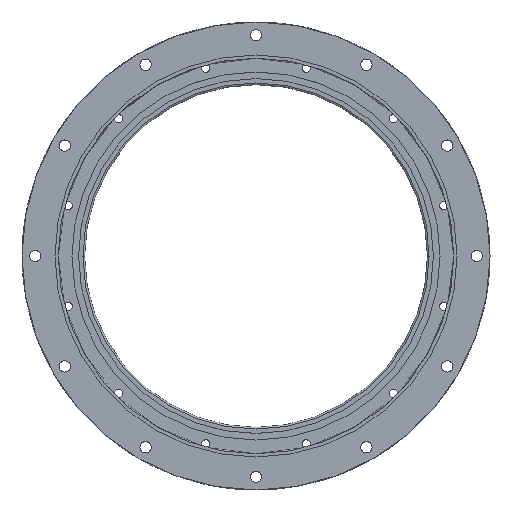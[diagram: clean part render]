
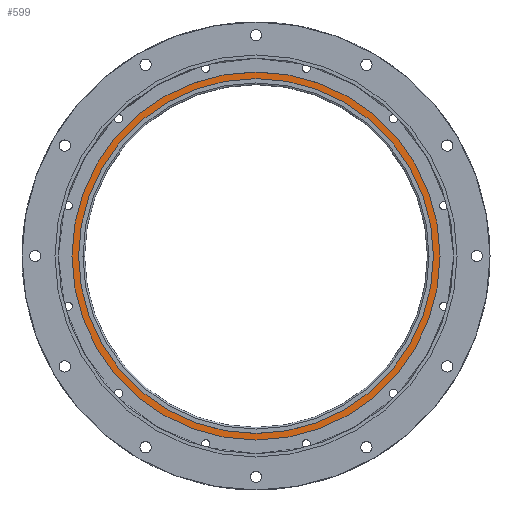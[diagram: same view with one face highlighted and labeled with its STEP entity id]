
A CAD part, top view. The second image highlights one B-rep face of the part: STEP entity #599.
In plain terms, the highlighted planar face has unit normal (0, 0, 1).
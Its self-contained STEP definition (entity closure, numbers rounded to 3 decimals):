
#40 = ORIENTED_EDGE ( 'NONE', *, *, #3191, .T. ) ;
#207 = AXIS2_PLACEMENT_3D ( 'NONE', #5535, #818, #1891 ) ;
#385 = DIRECTION ( 'NONE',  ( 1., 0., 0. ) ) ;
#457 = ORIENTED_EDGE ( 'NONE', *, *, #2290, .T. ) ;
#527 = CARTESIAN_POINT ( 'NONE',  ( 0., 0., 4.8 ) ) ;
#599 = ADVANCED_FACE ( 'NONE', ( #4977, #1909 ), #1973, .T. ) ;
#818 = DIRECTION ( 'NONE',  ( 0., 0., 1. ) ) ;
#829 = AXIS2_PLACEMENT_3D ( 'NONE', #5490, #834, #385 ) ;
#834 = DIRECTION ( 'NONE',  ( 0., 0., 1. ) ) ;
#1053 = EDGE_CURVE ( 'NONE', #4010, #5414, #4382, .T. ) ;
#1172 = CIRCLE ( 'NONE', #3864, 55.835 ) ;
#1392 = CIRCLE ( 'NONE', #207, 53.835 ) ;
#1558 = CARTESIAN_POINT ( 'NONE',  ( 0., 0., 4.8 ) ) ;
#1619 = EDGE_LOOP ( 'NONE', ( #4319, #2962 ) ) ;
#1835 = CIRCLE ( 'NONE', #2692, 55.835 ) ;
#1891 = DIRECTION ( 'NONE',  ( 1., 0., 0. ) ) ;
#1909 = FACE_OUTER_BOUND ( 'NONE', #4105, .T. ) ;
#1973 = PLANE ( 'NONE',  #829 ) ;
#2252 = EDGE_CURVE ( 'NONE', #5414, #4010, #1392, .T. ) ;
#2290 = EDGE_CURVE ( 'NONE', #3253, #5097, #1172, .T. ) ;
#2559 = AXIS2_PLACEMENT_3D ( 'NONE', #6437, #5000, #4423 ) ;
#2566 = DIRECTION ( 'NONE',  ( 1., 0., 0. ) ) ;
#2588 = DIRECTION ( 'NONE',  ( 1., 0., 0. ) ) ;
#2692 = AXIS2_PLACEMENT_3D ( 'NONE', #527, #3488, #2588 ) ;
#2962 = ORIENTED_EDGE ( 'NONE', *, *, #1053, .F. ) ;
#3061 = CARTESIAN_POINT ( 'NONE',  ( -53.835, 0., 4.8 ) ) ;
#3185 = CARTESIAN_POINT ( 'NONE',  ( -55.835, 0., 4.8 ) ) ;
#3191 = EDGE_CURVE ( 'NONE', #5097, #3253, #1835, .T. ) ;
#3253 = VERTEX_POINT ( 'NONE', #3185 ) ;
#3488 = DIRECTION ( 'NONE',  ( 0., 0., 1. ) ) ;
#3676 = CARTESIAN_POINT ( 'NONE',  ( 53.835, 0., 4.8 ) ) ;
#3864 = AXIS2_PLACEMENT_3D ( 'NONE', #1558, #5099, #2566 ) ;
#4010 = VERTEX_POINT ( 'NONE', #3061 ) ;
#4105 = EDGE_LOOP ( 'NONE', ( #40, #457 ) ) ;
#4319 = ORIENTED_EDGE ( 'NONE', *, *, #2252, .F. ) ;
#4356 = CARTESIAN_POINT ( 'NONE',  ( 55.835, 0., 4.8 ) ) ;
#4382 = CIRCLE ( 'NONE', #2559, 53.835 ) ;
#4423 = DIRECTION ( 'NONE',  ( 1., 0., 0. ) ) ;
#4977 = FACE_BOUND ( 'NONE', #1619, .T. ) ;
#5000 = DIRECTION ( 'NONE',  ( 0., 0., 1. ) ) ;
#5097 = VERTEX_POINT ( 'NONE', #4356 ) ;
#5099 = DIRECTION ( 'NONE',  ( 0., 0., 1. ) ) ;
#5414 = VERTEX_POINT ( 'NONE', #3676 ) ;
#5490 = CARTESIAN_POINT ( 'NONE',  ( 0., 0., 4.8 ) ) ;
#5535 = CARTESIAN_POINT ( 'NONE',  ( 0., 0., 4.8 ) ) ;
#6437 = CARTESIAN_POINT ( 'NONE',  ( 0., 0., 4.8 ) ) ;
